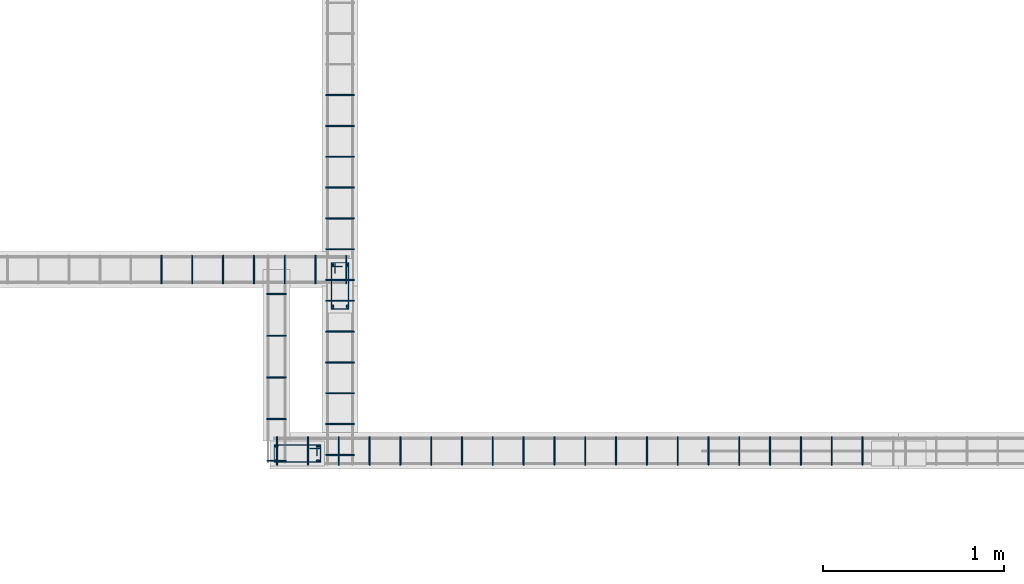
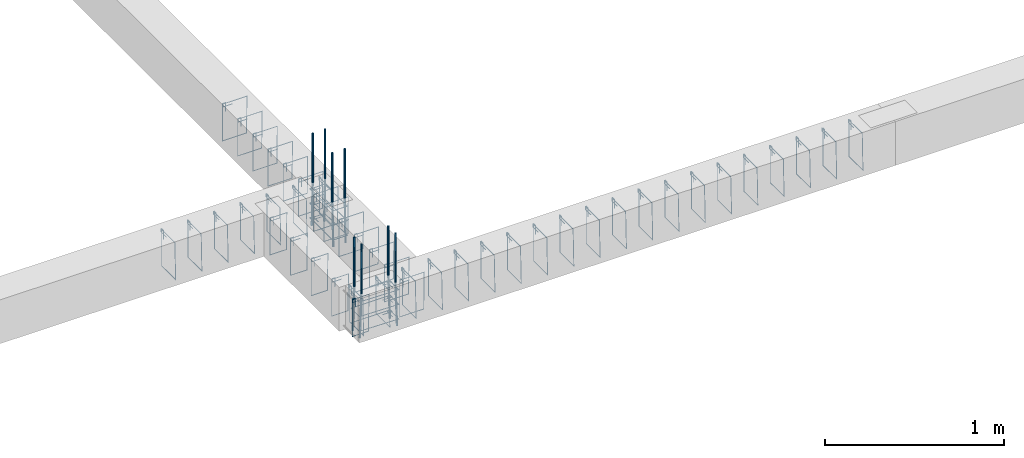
# One storey, part 21 of 150: 59 reinforcing bars.
"""IFC4 building model written with IfcOpenShell, lengths in centimetres."""

from ifc_helpers import new_model, entity, si_unit, derived_unit, frame, origin_with_axes, place, context, project, spatial, source, transform, mapped, element, save


model = new_model("IFC4")

# Units and contexts
model_context = context("Model", 3, precision=1e-05, world=origin_with_axes(), identifier="Body")
ifc_project = project(units=[si_unit("LENGTHUNIT", "METRE", prefix="CENTI"), si_unit("VOLUMEUNIT", "CUBIC_METRE"), si_unit("AREAUNIT", "SQUARE_METRE"), si_unit("POWERUNIT", "WATT"), si_unit("LUMINOUSFLUXUNIT", "LUMEN"), si_unit("ELECTRICCURRENTUNIT", "AMPERE"), si_unit("PRESSUREUNIT", "PASCAL", prefix="KILO"), si_unit("MASSUNIT", "GRAM", prefix="KILO"), si_unit("PLANEANGLEUNIT", "RADIAN"), derived_unit("VOLUMETRICFLOWRATEUNIT", [(si_unit("LENGTHUNIT", "METRE"), 3), (si_unit("TIMEUNIT", "SECOND"), -1)])], contexts=[model_context])

# Site, building, storey
site_placement = place(None, frame((-4000.0, 0.0, 0.0), z_axis=(0.0, 0.0, 1.0), x_axis=(1.0, 0.0, 0.0)))
site = spatial("IfcSite", under=ifc_project, at=site_placement, Name="PADRÃO")
building_placement = place(site_placement, frame((0.0, 0.0, -14.0)))
building = spatial("IfcBuilding", under=site, at=building_placement, Name="CRECHE PRÉ-ESCOLA TIPO 2")
placement = place(building_placement, origin_with_axes())
storey_placement = place(placement, frame((0.0, 0.0, 30.0), z_axis=(0.0, 0.0, 1.0), x_axis=(1.0, 0.0, 0.0)))
storey = spatial("IfcBuildingStorey", under=building, at=storey_placement, Name="VIGA BALDRAME", CompositionType="ELEMENT", Elevation=16.0)

# Reinforcing bars
shared_shape_1 = source(origin_with_axes(), model_context, "Body", "AdvancedSweptSolid", [
    entity("IfcSweptDiskSolid", entity("IfcCompositeCurve", [entity("IfcCompositeCurveSegment", "CONTINUOUS", True, entity("IfcPolyline", [entity("IfcCartesianPoint", [4.25, 21.75, 0.0]), entity("IfcCartesianPoint", [4.25, 27.75, 0.0])])), entity("IfcCompositeCurveSegment", "CONTINUOUS", True, entity("IfcPolyline", [entity("IfcCartesianPoint", [4.25, 27.75, 0.0]), entity("IfcCartesianPoint", [2.25, 27.75, 0.0])])), entity("IfcCompositeCurveSegment", "CONTINUOUS", True, entity("IfcPolyline", [entity("IfcCartesianPoint", [2.25, 27.75, 0.0]), entity("IfcCartesianPoint", [2.25, 2.25, 0.0])])), entity("IfcCompositeCurveSegment", "CONTINUOUS", True, entity("IfcPolyline", [entity("IfcCartesianPoint", [2.25, 2.25, 0.0]), entity("IfcCartesianPoint", [11.75, 2.25, 0.0])])), entity("IfcCompositeCurveSegment", "CONTINUOUS", True, entity("IfcPolyline", [entity("IfcCartesianPoint", [11.75, 2.25, 0.0]), entity("IfcCartesianPoint", [11.75, 27.75, -0.5])])), entity("IfcCompositeCurveSegment", "CONTINUOUS", True, entity("IfcPolyline", [entity("IfcCartesianPoint", [11.75, 27.75, -0.5]), entity("IfcCartesianPoint", [2.25, 27.75, -0.5])])), entity("IfcCompositeCurveSegment", "CONTINUOUS", True, entity("IfcPolyline", [entity("IfcCartesianPoint", [2.25, 27.75, -0.5]), entity("IfcCartesianPoint", [2.25, 25.75, -0.5])])), entity("IfcCompositeCurveSegment", "CONTINUOUS", True, entity("IfcPolyline", [entity("IfcCartesianPoint", [2.25, 25.75, -0.5]), entity("IfcCartesianPoint", [8.25, 25.75, -0.5])]))], False), 0.25),
])
for number, where, z_axis, x_axis, name in (
    (1, (496.57, 493.51, -25.0), (0.0, 0.0, 1.0), (1.0, 0.0, 0.0), "P136 - Estribo"),
    (2, (496.57, 493.51, -15.0), (0.0, 0.0, 1.0), (1.0, 0.0, 0.0), "P136 - Estribo"),
    (3, (496.57, 493.51, -5.0), (0.0, 0.0, 1.0), (1.0, 0.0, 0.0), "P136 - Estribo"),
):
    element("IfcReinforcingBar", number, at=place(storey_placement, frame(where, z_axis=z_axis, x_axis=x_axis)), inside=storey, Name=name, BarLength=0.0, CrossSectionArea=1.9634954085e-05, NominalDiameter=0.5, PredefinedType="MAIN", context=model_context, shape_type="MappedRepresentation", body=[
        mapped(shared_shape_1, transform((0.0, 0.0, 0.0), scale=1.0)),
    ])
shared_shape_2 = source(origin_with_axes(), model_context, "Body", "AdvancedSweptSolid", [
    entity("IfcSweptDiskSolid", entity("IfcCompositeCurve", [entity("IfcCompositeCurveSegment", "CONTINUOUS", True, entity("IfcPolyline", [entity("IfcCartesianPoint", [4.25, 21.75, 0.0]), entity("IfcCartesianPoint", [4.25, 27.75, 0.0])])), entity("IfcCompositeCurveSegment", "CONTINUOUS", True, entity("IfcPolyline", [entity("IfcCartesianPoint", [4.25, 27.75, 0.0]), entity("IfcCartesianPoint", [2.25, 27.75, 0.0])])), entity("IfcCompositeCurveSegment", "CONTINUOUS", True, entity("IfcPolyline", [entity("IfcCartesianPoint", [2.25, 27.75, 0.0]), entity("IfcCartesianPoint", [2.25, 2.25, 0.0])])), entity("IfcCompositeCurveSegment", "CONTINUOUS", True, entity("IfcPolyline", [entity("IfcCartesianPoint", [2.25, 2.25, 0.0]), entity("IfcCartesianPoint", [11.75, 2.25, 0.0])])), entity("IfcCompositeCurveSegment", "CONTINUOUS", True, entity("IfcPolyline", [entity("IfcCartesianPoint", [11.75, 2.25, 0.0]), entity("IfcCartesianPoint", [11.75, 27.75, -0.5])])), entity("IfcCompositeCurveSegment", "CONTINUOUS", True, entity("IfcPolyline", [entity("IfcCartesianPoint", [11.75, 27.75, -0.5]), entity("IfcCartesianPoint", [2.25, 27.75, -0.5])])), entity("IfcCompositeCurveSegment", "CONTINUOUS", True, entity("IfcPolyline", [entity("IfcCartesianPoint", [2.25, 27.75, -0.5]), entity("IfcCartesianPoint", [2.25, 25.75, -0.5])])), entity("IfcCompositeCurveSegment", "CONTINUOUS", True, entity("IfcPolyline", [entity("IfcCartesianPoint", [2.25, 25.75, -0.5]), entity("IfcCartesianPoint", [8.25, 25.75, -0.5])]))], False), 0.25),
])
for number, where, z_axis, x_axis, name in (
    (4, (465.0, 423.0, -5.0), (0.0, 0.0, 1.0), (0.0, -1.0, 0.0), "P143 - Estribo"),
    (5, (465.0, 423.0, -25.0), (0.0, 0.0, 1.0), (0.0, -1.0, 0.0), "P143 - Estribo"),
    (6, (465.0, 423.0, -15.0), (0.0, 0.0, 1.0), (0.0, -1.0, 0.0), "P143 - Estribo"),
):
    element("IfcReinforcingBar", number, at=place(storey_placement, frame(where, z_axis=z_axis, x_axis=x_axis)), inside=storey, Name=name, BarLength=0.0, CrossSectionArea=1.9634954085e-05, NominalDiameter=0.5, PredefinedType="MAIN", context=model_context, shape_type="MappedRepresentation", body=[
        mapped(shared_shape_2, transform((0.0, 0.0, 0.0), scale=1.0)),
    ])
shared_shape_3 = source(origin_with_axes(), model_context, "Body", "AdvancedSweptSolid", [
    entity("IfcSweptDiskSolid", entity("IfcCompositeCurve", [entity("IfcCompositeCurveSegment", "CONTINUOUS", True, entity("IfcPolyline", [entity("IfcCartesianPoint", [2.0, -6.0, 0.0]), entity("IfcCartesianPoint", [2.0, 0.0, 0.0])])), entity("IfcCompositeCurveSegment", "CONTINUOUS", True, entity("IfcPolyline", [entity("IfcCartesianPoint", [2.0, 0.0, 0.0]), entity("IfcCartesianPoint", [0.0, 0.0, 0.0])])), entity("IfcCompositeCurveSegment", "CONTINUOUS", True, entity("IfcPolyline", [entity("IfcCartesianPoint", [0.0, 0.0, 0.0]), entity("IfcCartesianPoint", [0.0, -25.5, 0.0])])), entity("IfcCompositeCurveSegment", "CONTINUOUS", True, entity("IfcPolyline", [entity("IfcCartesianPoint", [0.0, -25.5, 0.0]), entity("IfcCartesianPoint", [15.5, -25.5, 0.0])])), entity("IfcCompositeCurveSegment", "CONTINUOUS", True, entity("IfcPolyline", [entity("IfcCartesianPoint", [15.5, -25.5, 0.0]), entity("IfcCartesianPoint", [15.5, 0.0, 0.5])])), entity("IfcCompositeCurveSegment", "CONTINUOUS", True, entity("IfcPolyline", [entity("IfcCartesianPoint", [15.5, 0.0, 0.5]), entity("IfcCartesianPoint", [0.0, 0.0, 0.5])])), entity("IfcCompositeCurveSegment", "CONTINUOUS", True, entity("IfcPolyline", [entity("IfcCartesianPoint", [0.0, 0.0, 0.5]), entity("IfcCartesianPoint", [0.0, -2.0, 0.5])])), entity("IfcCompositeCurveSegment", "CONTINUOUS", True, entity("IfcPolyline", [entity("IfcCartesianPoint", [0.0, -2.0, 0.5]), entity("IfcCartesianPoint", [6.0, -2.0, 0.5])]))], False), 0.25),
])
for number, where, z_axis, x_axis, name in (
    (7, (673.110000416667, 425.25, -2.25), (-1.0, 0.0, 0.0), (0.0, -1.0, 0.0), "V154 - Estribo"),
    (8, (605.110000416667, 425.25, -2.25), (-1.0, 0.0, 0.0), (0.0, -1.0, 0.0), "V154 - Estribo"),
    (9, (639.110000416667, 425.25, -2.25), (-1.0, 0.0, 0.0), (0.0, -1.0, 0.0), "V154 - Estribo"),
    (10, (571.110000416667, 425.25, -2.25), (-1.0, 0.0, 0.0), (0.0, -1.0, 0.0), "V154 - Estribo"),
    (11, (656.110000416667, 425.25, -2.25), (-1.0, 0.0, 0.0), (0.0, -1.0, 0.0), "V154 - Estribo"),
    (12, (622.110000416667, 425.25, -2.25), (-1.0, 0.0, 0.0), (0.0, -1.0, 0.0), "V154 - Estribo"),
    (13, (690.110000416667, 425.25, -2.25), (-1.0, 0.0, 0.0), (0.0, -1.0, 0.0), "V154 - Estribo"),
    (14, (469.110000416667, 425.25, -2.25), (-1.0, 0.0, 0.0), (0.0, -1.0, 0.0), "V154 - Estribo"),
    (15, (486.110000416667, 425.25, -2.25), (-1.0, 0.0, 0.0), (0.0, -1.0, 0.0), "V154 - Estribo"),
    (16, (503.110000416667, 425.25, -2.25), (-1.0, 0.0, 0.0), (0.0, -1.0, 0.0), "V154 - Estribo"),
    (17, (520.110000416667, 425.25, -2.25), (-1.0, 0.0, 0.0), (0.0, -1.0, 0.0), "V154 - Estribo"),
    (18, (537.110000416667, 425.25, -2.25), (-1.0, 0.0, 0.0), (0.0, -1.0, 0.0), "V154 - Estribo"),
    (19, (554.110000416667, 425.25, -2.25), (-1.0, 0.0, 0.0), (0.0, -1.0, 0.0), "V154 - Estribo"),
    (20, (588.110000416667, 425.25, -2.25), (-1.0, 0.0, 0.0), (0.0, -1.0, 0.0), "V154 - Estribo"),
    (21, (792.110000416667, 425.25, -2.25), (-1.0, 0.0, 0.0), (0.0, -1.0, 0.0), "V154 - Estribo"),
    (22, (775.110000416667, 425.25, -2.25), (-1.0, 0.0, 0.0), (0.0, -1.0, 0.0), "V154 - Estribo"),
    (23, (758.110000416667, 425.25, -2.25), (-1.0, 0.0, 0.0), (0.0, -1.0, 0.0), "V154 - Estribo"),
    (24, (741.110000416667, 425.25, -2.25), (-1.0, 0.0, 0.0), (0.0, -1.0, 0.0), "V154 - Estribo"),
    (25, (724.110000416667, 425.25, -2.25), (-1.0, 0.0, 0.0), (0.0, -1.0, 0.0), "V154 - Estribo"),
    (26, (707.110000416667, 425.25, -2.25), (-1.0, 0.0, 0.0), (0.0, -1.0, 0.0), "V154 - Estribo"),
):
    element("IfcReinforcingBar", number, at=place(storey_placement, frame(where, z_axis=z_axis, x_axis=x_axis)), inside=storey, Name=name, BarLength=0.0, CrossSectionArea=1.9634954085e-05, NominalDiameter=0.5, PredefinedType="MAIN", context=model_context, shape_type="MappedRepresentation", body=[
        mapped(shared_shape_3, transform((0.0, 0.0, 0.0), scale=1.0)),
    ])
shared_shape_4 = source(origin_with_axes(), model_context, "Body", "AdvancedSweptSolid", [
    entity("IfcSweptDiskSolid", entity("IfcCompositeCurve", [entity("IfcCompositeCurveSegment", "CONTINUOUS", True, entity("IfcPolyline", [entity("IfcCartesianPoint", [2.0, -6.0, 0.0]), entity("IfcCartesianPoint", [2.0, 0.0, 0.0])])), entity("IfcCompositeCurveSegment", "CONTINUOUS", True, entity("IfcPolyline", [entity("IfcCartesianPoint", [2.0, 0.0, 0.0]), entity("IfcCartesianPoint", [0.0, 0.0, 0.0])])), entity("IfcCompositeCurveSegment", "CONTINUOUS", True, entity("IfcPolyline", [entity("IfcCartesianPoint", [0.0, 0.0, 0.0]), entity("IfcCartesianPoint", [0.0, -25.5, 0.0])])), entity("IfcCompositeCurveSegment", "CONTINUOUS", True, entity("IfcPolyline", [entity("IfcCartesianPoint", [0.0, -25.5, 0.0]), entity("IfcCartesianPoint", [15.5, -25.5, 0.0])])), entity("IfcCompositeCurveSegment", "CONTINUOUS", True, entity("IfcPolyline", [entity("IfcCartesianPoint", [15.5, -25.5, 0.0]), entity("IfcCartesianPoint", [15.5, 0.0, 0.5])])), entity("IfcCompositeCurveSegment", "CONTINUOUS", True, entity("IfcPolyline", [entity("IfcCartesianPoint", [15.5, 0.0, 0.5]), entity("IfcCartesianPoint", [0.0, 0.0, 0.5])])), entity("IfcCompositeCurveSegment", "CONTINUOUS", True, entity("IfcPolyline", [entity("IfcCartesianPoint", [0.0, 0.0, 0.5]), entity("IfcCartesianPoint", [0.0, -2.0, 0.5])])), entity("IfcCompositeCurveSegment", "CONTINUOUS", True, entity("IfcPolyline", [entity("IfcCartesianPoint", [0.0, -2.0, 0.5]), entity("IfcCartesianPoint", [6.0, -2.0, 0.5])]))], False), 0.25),
])
for number, where, z_axis, x_axis, name in (
    (27, (495.82, 500.505, -2.25), (0.0, -1.0, 0.0), (1.0, 0.0, 0.0), "V166 - Estribo"),
    (28, (495.82, 483.505, -2.25), (0.0, -1.0, 0.0), (1.0, 0.0, 0.0), "V166 - Estribo"),
    (29, (495.82, 466.505, -2.25), (0.0, -1.0, 0.0), (1.0, 0.0, 0.0), "V166 - Estribo"),
    (30, (495.82, 432.505, -2.25), (0.0, -1.0, 0.0), (1.0, 0.0, 0.0), "V166 - Estribo"),
    (31, (495.82, 415.505, -2.25), (0.0, -1.0, 0.0), (1.0, 0.0, 0.0), "V166 - Estribo"),
    (32, (495.82, 449.505, -2.25), (0.0, -1.0, 0.0), (1.0, 0.0, 0.0), "V166 - Estribo"),
):
    element("IfcReinforcingBar", number, at=place(storey_placement, frame(where, z_axis=z_axis, x_axis=x_axis)), inside=storey, Name=name, BarLength=0.0, CrossSectionArea=1.9634954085e-05, NominalDiameter=0.5, PredefinedType="MAIN", context=model_context, shape_type="MappedRepresentation", body=[
        mapped(shared_shape_4, transform((0.0, 0.0, 0.0), scale=1.0)),
    ])
shared_shape_5 = source(origin_with_axes(), model_context, "Body", "AdvancedSweptSolid", [
    entity("IfcSweptDiskSolid", entity("IfcCompositeCurve", [entity("IfcCompositeCurveSegment", "CONTINUOUS", True, entity("IfcPolyline", [entity("IfcCartesianPoint", [2.0, -6.0, 0.0]), entity("IfcCartesianPoint", [2.0, 0.0, 0.0])])), entity("IfcCompositeCurveSegment", "CONTINUOUS", True, entity("IfcPolyline", [entity("IfcCartesianPoint", [2.0, 0.0, 0.0]), entity("IfcCartesianPoint", [0.0, 0.0, 0.0])])), entity("IfcCompositeCurveSegment", "CONTINUOUS", True, entity("IfcPolyline", [entity("IfcCartesianPoint", [0.0, 0.0, 0.0]), entity("IfcCartesianPoint", [0.0, -25.5, 0.0])])), entity("IfcCompositeCurveSegment", "CONTINUOUS", True, entity("IfcPolyline", [entity("IfcCartesianPoint", [0.0, -25.5, 0.0]), entity("IfcCartesianPoint", [15.5, -25.5, 0.0])])), entity("IfcCompositeCurveSegment", "CONTINUOUS", True, entity("IfcPolyline", [entity("IfcCartesianPoint", [15.5, -25.5, 0.0]), entity("IfcCartesianPoint", [15.5, 0.0, 0.5])])), entity("IfcCompositeCurveSegment", "CONTINUOUS", True, entity("IfcPolyline", [entity("IfcCartesianPoint", [15.5, 0.0, 0.5]), entity("IfcCartesianPoint", [0.0, 0.0, 0.5])])), entity("IfcCompositeCurveSegment", "CONTINUOUS", True, entity("IfcPolyline", [entity("IfcCartesianPoint", [0.0, 0.0, 0.5]), entity("IfcCartesianPoint", [0.0, -2.0, 0.5])])), entity("IfcCompositeCurveSegment", "CONTINUOUS", True, entity("IfcPolyline", [entity("IfcCartesianPoint", [0.0, -2.0, 0.5]), entity("IfcCartesianPoint", [6.0, -2.0, 0.5])]))], False), 0.25),
])
for number, where, z_axis, x_axis, name in (
    (33, (495.82, 614.01, -2.25), (0.0, -1.0, 0.0), (1.0, 0.0, 0.0), "V166 - Estribo"),
    (34, (495.82, 512.01, -2.25), (0.0, -1.0, 0.0), (1.0, 0.0, 0.0), "V166 - Estribo"),
    (35, (495.82, 597.01, -2.25), (0.0, -1.0, 0.0), (1.0, 0.0, 0.0), "V166 - Estribo"),
    (36, (495.82, 563.01, -2.25), (0.0, -1.0, 0.0), (1.0, 0.0, 0.0), "V166 - Estribo"),
    (37, (495.82, 546.01, -2.25), (0.0, -1.0, 0.0), (1.0, 0.0, 0.0), "V166 - Estribo"),
    (38, (495.82, 529.01, -2.25), (0.0, -1.0, 0.0), (1.0, 0.0, 0.0), "V166 - Estribo"),
    (39, (495.82, 580.01, -2.25), (0.0, -1.0, 0.0), (1.0, 0.0, 0.0), "V166 - Estribo"),
):
    element("IfcReinforcingBar", number, at=place(storey_placement, frame(where, z_axis=z_axis, x_axis=x_axis)), inside=storey, Name=name, BarLength=0.0, CrossSectionArea=1.9634954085e-05, NominalDiameter=0.5, PredefinedType="MAIN", context=model_context, shape_type="MappedRepresentation", body=[
        mapped(shared_shape_5, transform((0.0, 0.0, 0.0), scale=1.0)),
    ])
shared_shape_6 = source(origin_with_axes(), model_context, "Body", "AdvancedSweptSolid", [
    entity("IfcSweptDiskSolid", entity("IfcCompositeCurve", [entity("IfcCompositeCurveSegment", "CONTINUOUS", True, entity("IfcPolyline", [entity("IfcCartesianPoint", [2.0, -6.0, 0.0]), entity("IfcCartesianPoint", [2.0, 0.0, 0.0])])), entity("IfcCompositeCurveSegment", "CONTINUOUS", True, entity("IfcPolyline", [entity("IfcCartesianPoint", [2.0, 0.0, 0.0]), entity("IfcCartesianPoint", [0.0, 0.0, 0.0])])), entity("IfcCompositeCurveSegment", "CONTINUOUS", True, entity("IfcPolyline", [entity("IfcCartesianPoint", [0.0, 0.0, 0.0]), entity("IfcCartesianPoint", [0.0, -25.5, 0.0])])), entity("IfcCompositeCurveSegment", "CONTINUOUS", True, entity("IfcPolyline", [entity("IfcCartesianPoint", [0.0, -25.5, 0.0]), entity("IfcCartesianPoint", [15.5, -25.5, 0.0])])), entity("IfcCompositeCurveSegment", "CONTINUOUS", True, entity("IfcPolyline", [entity("IfcCartesianPoint", [15.5, -25.5, 0.0]), entity("IfcCartesianPoint", [15.5, 0.0, 0.5])])), entity("IfcCompositeCurveSegment", "CONTINUOUS", True, entity("IfcPolyline", [entity("IfcCartesianPoint", [15.5, 0.0, 0.5]), entity("IfcCartesianPoint", [0.0, 0.0, 0.5])])), entity("IfcCompositeCurveSegment", "CONTINUOUS", True, entity("IfcPolyline", [entity("IfcCartesianPoint", [0.0, 0.0, 0.5]), entity("IfcCartesianPoint", [0.0, -2.0, 0.5])])), entity("IfcCompositeCurveSegment", "CONTINUOUS", True, entity("IfcPolyline", [entity("IfcCartesianPoint", [0.0, -2.0, 0.5]), entity("IfcCartesianPoint", [6.0, -2.0, 0.5])]))], False), 0.25),
])
for number, where, z_axis, x_axis, name in (
    (40, (507.285, 525.25, -2.25), (-1.0, 0.0, 0.0), (0.0, -1.0, 0.0), "V149 - Estribo"),
    (41, (490.285, 525.25, -2.25), (-1.0, 0.0, 0.0), (0.0, -1.0, 0.0), "V149 - Estribo"),
    (42, (473.285, 525.25, -2.25), (-1.0, 0.0, 0.0), (0.0, -1.0, 0.0), "V149 - Estribo"),
    (43, (456.285, 525.25, -2.25), (-1.0, 0.0, 0.0), (0.0, -1.0, 0.0), "V149 - Estribo"),
    (44, (439.285, 525.25, -2.25), (-1.0, 0.0, 0.0), (0.0, -1.0, 0.0), "V149 - Estribo"),
    (45, (422.285, 525.25, -2.25), (-1.0, 0.0, 0.0), (0.0, -1.0, 0.0), "V149 - Estribo"),
    (46, (405.285, 525.25, -2.25), (-1.0, 0.0, 0.0), (0.0, -1.0, 0.0), "V149 - Estribo"),
):
    element("IfcReinforcingBar", number, at=place(storey_placement, frame(where, z_axis=z_axis, x_axis=x_axis)), inside=storey, Name=name, BarLength=0.0, CrossSectionArea=1.9634954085e-05, NominalDiameter=0.5, PredefinedType="MAIN", context=model_context, shape_type="MappedRepresentation", body=[
        mapped(shared_shape_6, transform((0.0, 0.0, 0.0), scale=1.0)),
    ])
shared_shape_7 = source(origin_with_axes(), model_context, "Body", "AdvancedSweptSolid", [
    entity("IfcSweptDiskSolid", entity("IfcCompositeCurve", [entity("IfcCompositeCurveSegment", "CONTINUOUS", True, entity("IfcPolyline", [entity("IfcCartesianPoint", [2.0, -6.0, 0.0]), entity("IfcCartesianPoint", [2.0, 0.0, 0.0])])), entity("IfcCompositeCurveSegment", "CONTINUOUS", True, entity("IfcPolyline", [entity("IfcCartesianPoint", [2.0, 0.0, 0.0]), entity("IfcCartesianPoint", [0.0, 0.0, 0.0])])), entity("IfcCompositeCurveSegment", "CONTINUOUS", True, entity("IfcPolyline", [entity("IfcCartesianPoint", [0.0, 0.0, 0.0]), entity("IfcCartesianPoint", [0.0, -25.5, 0.0])])), entity("IfcCompositeCurveSegment", "CONTINUOUS", True, entity("IfcPolyline", [entity("IfcCartesianPoint", [0.0, -25.5, 0.0]), entity("IfcCartesianPoint", [10.5, -25.5, 0.0])])), entity("IfcCompositeCurveSegment", "CONTINUOUS", True, entity("IfcPolyline", [entity("IfcCartesianPoint", [10.5, -25.5, 0.0]), entity("IfcCartesianPoint", [10.5, 0.0, 0.5])])), entity("IfcCompositeCurveSegment", "CONTINUOUS", True, entity("IfcPolyline", [entity("IfcCartesianPoint", [10.5, 0.0, 0.5]), entity("IfcCartesianPoint", [0.0, 0.0, 0.5])])), entity("IfcCompositeCurveSegment", "CONTINUOUS", True, entity("IfcPolyline", [entity("IfcCartesianPoint", [0.0, 0.0, 0.5]), entity("IfcCartesianPoint", [0.0, -2.0, 0.5])])), entity("IfcCompositeCurveSegment", "CONTINUOUS", True, entity("IfcPolyline", [entity("IfcCartesianPoint", [0.0, -2.0, 0.5]), entity("IfcCartesianPoint", [6.0, -2.0, 0.5])]))], False), 0.25),
])
for number, where, z_axis, x_axis, name in (
    (47, (463.24, 504.25, -2.25), (0.0, -1.0, 0.0), (1.0, 0.0, 0.0), "V167 - Estribo"),
    (48, (463.24, 481.25, -2.25), (0.0, -1.0, 0.0), (1.0, 0.0, 0.0), "V167 - Estribo"),
    (49, (463.24, 458.25, -2.25), (0.0, -1.0, 0.0), (1.0, 0.0, 0.0), "V167 - Estribo"),
    (50, (463.24, 435.25, -2.25), (0.0, -1.0, 0.0), (1.0, 0.0, 0.0), "V167 - Estribo"),
    (51, (463.24, 412.25, -2.25), (0.0, -1.0, 0.0), (1.0, 0.0, 0.0), "V167 - Estribo"),
):
    element("IfcReinforcingBar", number, at=place(storey_placement, frame(where, z_axis=z_axis, x_axis=x_axis)), inside=storey, Name=name, BarLength=0.0, CrossSectionArea=1.9634954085e-05, NominalDiameter=0.5, PredefinedType="MAIN", context=model_context, shape_type="MappedRepresentation", body=[
        mapped(shared_shape_7, transform((0.0, 0.0, 0.0), scale=1.0)),
    ])
reinforcing_bar_1_placement = place(storey_placement, frame((507.57, 520.009861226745, 33.3573001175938), z_axis=(0.0, 0.0, 1.0), x_axis=(1.0, 0.0, 0.0)))
element("IfcReinforcingBar", 52, at=reinforcing_bar_1_placement, inside=storey, Name="P136 - Longitudinal", BarLength=0.0, CrossSectionArea=7.853981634e-05, NominalDiameter=1.0, PredefinedType="MAIN", context=model_context, shape_type="AdvancedSweptSolid", body=[
    entity("IfcSweptDiskSolid", entity("IfcCompositeCurve", [entity("IfcCompositeCurveSegment", "CONTINUOUS", True, entity("IfcPolyline", [entity("IfcCartesianPoint", [0.0, 0.50013877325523, -63.3573001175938]), entity("IfcCartesianPoint", [0.0, -0.49986122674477, -33.3573001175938])])), entity("IfcCompositeCurveSegment", "CONTINUOUS", True, entity("IfcPolyline", [entity("IfcCartesianPoint", [0.0, -0.49986122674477, -33.3573001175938]), entity("IfcCartesianPoint", [0.0, -0.49986122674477, 0.0])]))], False), 0.5),
])
for number, where, z_axis, x_axis, name in (
    (53, (499.57, 497.010138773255, 33.3573001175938), (0.0, 0.0, 1.0), (1.0, 0.0, 0.0), "P136 - Longitudinal"),
    (54, (507.57, 497.010138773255, 33.3573001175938), (0.0, 0.0, 1.0), (1.0, 0.0, 0.0), "P136 - Longitudinal"),
):
    element("IfcReinforcingBar", number, at=place(storey_placement, frame(where, z_axis=z_axis, x_axis=x_axis)), inside=storey, Name=name, BarLength=0.0, CrossSectionArea=7.853981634e-05, NominalDiameter=1.0, PredefinedType="MAIN", context=model_context, shape_type="AdvancedSweptSolid", body=[
        entity("IfcSweptDiskSolid", entity("IfcCompositeCurve", [entity("IfcCompositeCurveSegment", "CONTINUOUS", True, entity("IfcPolyline", [entity("IfcCartesianPoint", [0.0, -0.50013877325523, -63.3573001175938]), entity("IfcCartesianPoint", [0.0, 0.49986122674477, -33.3573001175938])])), entity("IfcCompositeCurveSegment", "CONTINUOUS", True, entity("IfcPolyline", [entity("IfcCartesianPoint", [0.0, 0.49986122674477, -33.3573001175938]), entity("IfcCartesianPoint", [0.0, 0.49986122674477, 0.0])]))], False), 0.5),
    ])
reinforcing_bar_2_placement = place(storey_placement, frame((499.57, 520.009861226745, 33.3573001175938), z_axis=(0.0, 0.0, 1.0), x_axis=(1.0, 0.0, 0.0)))
element("IfcReinforcingBar", 55, at=reinforcing_bar_2_placement, inside=storey, Name="P136 - Longitudinal", BarLength=0.0, CrossSectionArea=7.853981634e-05, NominalDiameter=1.0, PredefinedType="MAIN", context=model_context, shape_type="AdvancedSweptSolid", body=[
    entity("IfcSweptDiskSolid", entity("IfcCompositeCurve", [entity("IfcCompositeCurveSegment", "CONTINUOUS", True, entity("IfcPolyline", [entity("IfcCartesianPoint", [0.0, 0.50013877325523, -63.3573001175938]), entity("IfcCartesianPoint", [0.0, -0.49986122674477, -33.3573001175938])])), entity("IfcCompositeCurveSegment", "CONTINUOUS", True, entity("IfcPolyline", [entity("IfcCartesianPoint", [0.0, -0.49986122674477, -33.3573001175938]), entity("IfcCartesianPoint", [0.0, -0.49986122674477, 0.0])]))], False), 0.5),
])
for number, where, z_axis, x_axis, name in (
    (56, (468.500138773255, 420.0, 33.3573001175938), (0.0, 0.0, 1.0), (1.0, 0.0, 0.0), "P143 - Longitudinal"),
    (57, (468.500138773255, 412.0, 33.3573001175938), (0.0, 0.0, 1.0), (1.0, 0.0, 0.0), "P143 - Longitudinal"),
):
    element("IfcReinforcingBar", number, at=place(storey_placement, frame(where, z_axis=z_axis, x_axis=x_axis)), inside=storey, Name=name, BarLength=0.0, CrossSectionArea=7.853981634e-05, NominalDiameter=1.0, PredefinedType="MAIN", context=model_context, shape_type="AdvancedSweptSolid", body=[
        entity("IfcSweptDiskSolid", entity("IfcCompositeCurve", [entity("IfcCompositeCurveSegment", "CONTINUOUS", True, entity("IfcPolyline", [entity("IfcCartesianPoint", [-0.50013877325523, 0.0, -63.3573001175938]), entity("IfcCartesianPoint", [0.49986122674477, 0.0, -33.3573001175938])])), entity("IfcCompositeCurveSegment", "CONTINUOUS", True, entity("IfcPolyline", [entity("IfcCartesianPoint", [0.49986122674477, 0.0, -33.3573001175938]), entity("IfcCartesianPoint", [0.49986122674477, 0.0, 0.0])]))], False), 0.5),
    ])
for number, where, z_axis, x_axis, name in (
    (58, (491.499861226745, 412.0, 33.3573001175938), (0.0, 0.0, 1.0), (1.0, 0.0, 0.0), "P143 - Longitudinal"),
    (59, (491.499861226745, 420.0, 33.3573001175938), (0.0, 0.0, 1.0), (1.0, 0.0, 0.0), "P143 - Longitudinal"),
):
    element("IfcReinforcingBar", number, at=place(storey_placement, frame(where, z_axis=z_axis, x_axis=x_axis)), inside=storey, Name=name, BarLength=0.0, CrossSectionArea=7.853981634e-05, NominalDiameter=1.0, PredefinedType="MAIN", context=model_context, shape_type="AdvancedSweptSolid", body=[
        entity("IfcSweptDiskSolid", entity("IfcCompositeCurve", [entity("IfcCompositeCurveSegment", "CONTINUOUS", True, entity("IfcPolyline", [entity("IfcCartesianPoint", [0.50013877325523, 0.0, -63.3573001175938]), entity("IfcCartesianPoint", [-0.49986122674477, 0.0, -33.3573001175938])])), entity("IfcCompositeCurveSegment", "CONTINUOUS", True, entity("IfcPolyline", [entity("IfcCartesianPoint", [-0.49986122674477, 0.0, -33.3573001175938]), entity("IfcCartesianPoint", [-0.49986122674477, 0.0, 0.0])]))], False), 0.5),
    ])

save(model, "model.ifc")
